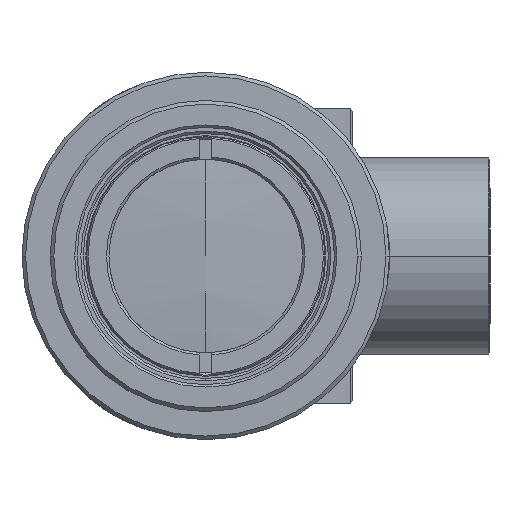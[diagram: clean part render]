
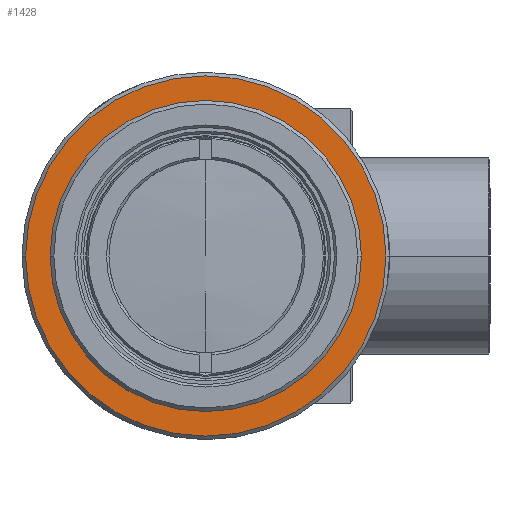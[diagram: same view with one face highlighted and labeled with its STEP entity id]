
A CAD part, left-side view. The second image highlights one B-rep face of the part: STEP entity #1428.
In plain terms, the highlighted planar face has unit normal (-1, 0, 0).
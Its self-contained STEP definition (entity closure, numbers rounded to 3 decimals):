
#1=CARTESIAN_POINT('',(4.,0.,0.));
#2=DIRECTION('',(-1.,0.,0.));
#3=DIRECTION('',(0.,1.,0.));
#4=AXIS2_PLACEMENT_3D('',#1,#2,#3);
#6=CARTESIAN_POINT('',(4.,0.,0.));
#7=DIRECTION('',(1.,0.,0.));
#8=DIRECTION('',(0.,1.,0.));
#9=AXIS2_PLACEMENT_3D('',#6,#7,#8);
#1305=CARTESIAN_POINT('',(4.,0.,0.));
#1306=DIRECTION('',(-1.,0.,0.));
#1307=DIRECTION('',(0.,1.,0.));
#1308=AXIS2_PLACEMENT_3D('',#1305,#1306,#1307);
#1314=CARTESIAN_POINT('',(4.,0.,0.));
#1315=DIRECTION('',(1.,0.,0.));
#1316=DIRECTION('',(0.,1.,0.));
#1317=AXIS2_PLACEMENT_3D('',#1314,#1315,#1316);
#1331=CARTESIAN_POINT('',(4.,12.,0.));
#1333=VERTEX_POINT('',#1331);
#1363=CARTESIAN_POINT('',(4.,14.705,0.));
#1364=VERTEX_POINT('',#1363);
#1365=CARTESIAN_POINT('',(4.,-12.,0.));
#1367=VERTEX_POINT('',#1365);
#1394=CARTESIAN_POINT('',(4.,-14.705,0.));
#1396=VERTEX_POINT('',#1394);
#1411=CARTESIAN_POINT('',(4.,0.,0.));
#1412=DIRECTION('',(-1.,0.,0.));
#1413=DIRECTION('',(0.,1.,0.));
#1414=AXIS2_PLACEMENT_3D('',#1411,#1412,#1413);
#1415=PLANE('',#1414);
#1417=ORIENTED_EDGE('',*,*,#1416,.F.);
#1419=ORIENTED_EDGE('',*,*,#1418,.T.);
#1420=EDGE_LOOP('',(#1417,#1419));
#1421=FACE_OUTER_BOUND('',#1420,.F.);
#1423=ORIENTED_EDGE('',*,*,#1422,.F.);
#1425=ORIENTED_EDGE('',*,*,#1424,.T.);
#1426=EDGE_LOOP('',(#1423,#1425));
#1427=FACE_BOUND('',#1426,.F.);
#1428=ADVANCED_FACE('',(#1421,#1427),#1415,.T.);
#5=CIRCLE('',#4,14.705);
#10=CIRCLE('',#9,14.705);
#1309=CIRCLE('',#1308,12.);
#1318=CIRCLE('',#1317,12.);
#1416=EDGE_CURVE('',#1364,#1396,#5,.T.);
#1418=EDGE_CURVE('',#1364,#1396,#10,.T.);
#1422=EDGE_CURVE('',#1333,#1367,#1318,.T.);
#1424=EDGE_CURVE('',#1333,#1367,#1309,.T.);
